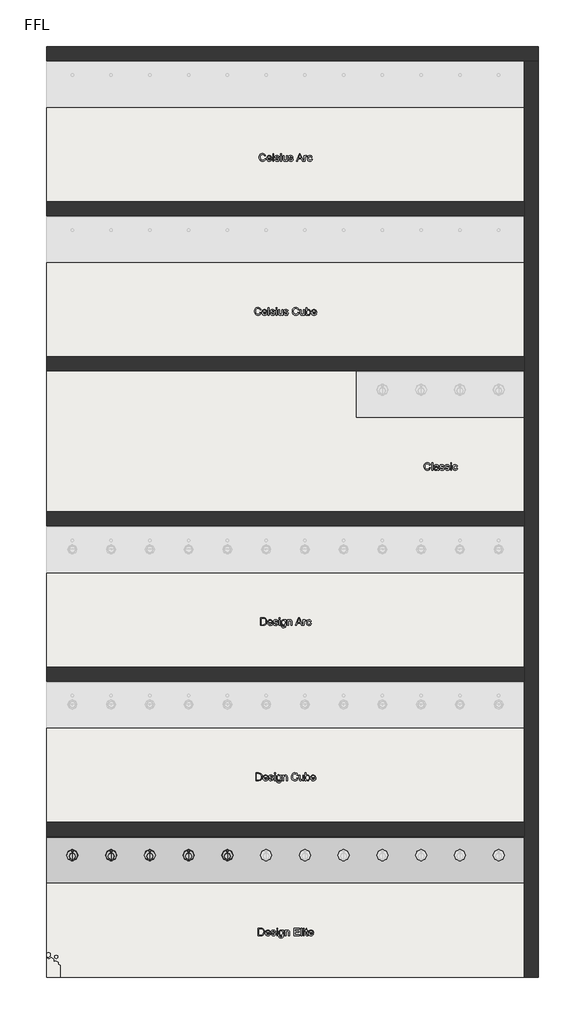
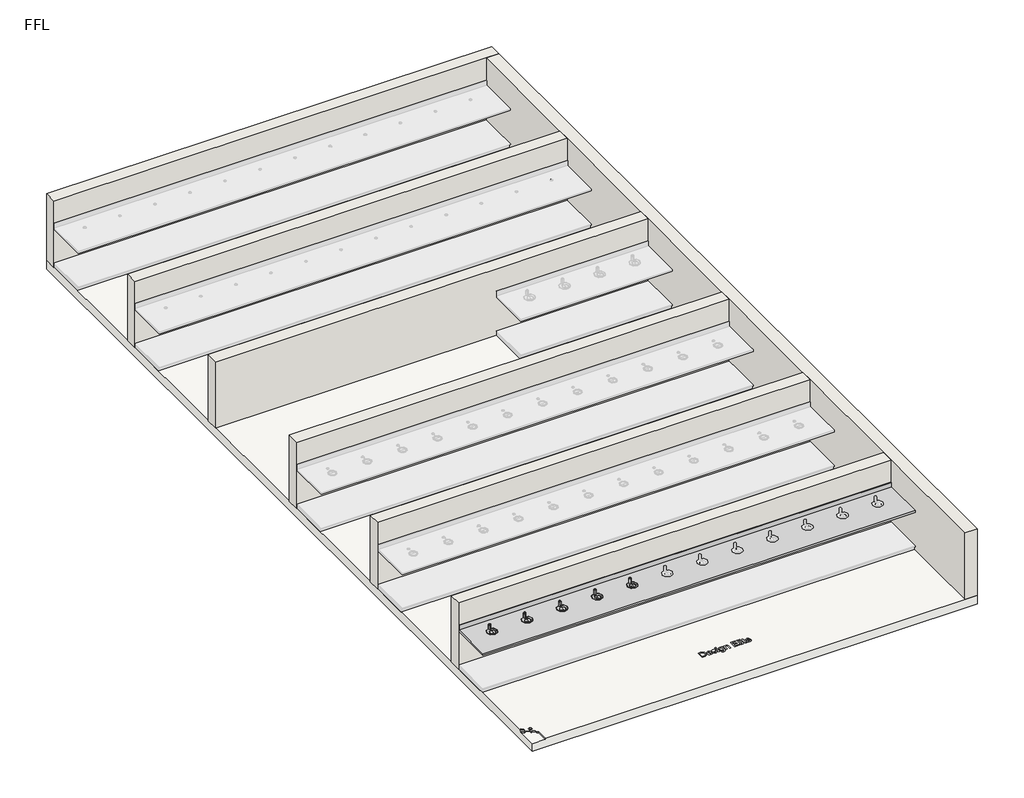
# One storey, part 1 of 6: 7 walls, 5 flow terminals, 1 furniture element, 1 slab.
"""IFC4 building model written with IfcOpenShell, lengths in millimetres."""

from ifc_helpers import new_model, si_unit, frame, origin, origin_with_axes, place, context, project, spatial, polyline, circle_curve, outline, extrude, faceted_brep, transform, mapped, element, save
from ifc_brep_helpers import plane_surface, revolved_surface, advanced_brep
from components import bright_chrome_13082571

model = new_model("IFC4")

# Units and contexts
model_context = context("Model", 3, world=origin())
ifc_project = project(units=[si_unit("LENGTHUNIT", "METRE", prefix="MILLI")], contexts=[model_context])

# Site, building, storey
site = spatial("IfcSite", under=ifc_project)
building = spatial("IfcBuilding", under=site)
storey = spatial("IfcBuildingStorey", under=building, Name="FFL", Elevation=0.0)

# Flow terminals
placement = place(None, origin())
bright_chrome_shape = bright_chrome_13082571(model_context)
element("IfcFlowTerminal", 1, ObjectType="z_PlumFixt_Zip Australia_Font and Tap Riser : Bright Chrome", at=placement, inside=storey, context=model_context, shape_type="MappedRepresentation", body=[
    mapped(bright_chrome_shape, transform((-6470.7352929, -1532.0106696, 900.0), x_axis=(1.0, 0.0, 0.0), y_axis=(0.0, 1.0, 0.0), z_axis=(0.0, 0.0, 1.0))),
])
element("IfcFlowTerminal", 2, ObjectType="z_PlumFixt_Zip Australia_Font and Tap Riser : Brushed Chrome", at=placement, inside=storey, context=model_context, shape_type="MappedRepresentation", body=[
    mapped(bright_chrome_shape, transform((-5720.7352929, -1532.0106696, 900.0), x_axis=(1.0, 0.0, 0.0), y_axis=(0.0, 1.0, 0.0), z_axis=(0.0, 0.0, 1.0))),
])
element("IfcFlowTerminal", 3, ObjectType="z_PlumFixt_Zip Australia_Font and Tap Riser : Brushed Gold", at=placement, inside=storey, context=model_context, shape_type="MappedRepresentation", body=[
    mapped(bright_chrome_shape, transform((-4970.7352929, -1532.0106696, 900.0), x_axis=(1.0, 0.0, 0.0), y_axis=(0.0, 1.0, 0.0), z_axis=(0.0, 0.0, 1.0))),
])
element("IfcFlowTerminal", 4, ObjectType="z_PlumFixt_Zip Australia_Font and Tap Riser : Brushed Nickel", at=placement, inside=storey, context=model_context, shape_type="MappedRepresentation", body=[
    mapped(bright_chrome_shape, transform((-4220.7352929, -1532.0106696, 900.0), x_axis=(1.0, 0.0, 0.0), y_axis=(0.0, 1.0, 0.0), z_axis=(0.0, 0.0, 1.0))),
])
element("IfcFlowTerminal", 5, ObjectType="z_PlumFixt_Zip Australia_Font and Tap Riser : Brushed Rose Gold", at=placement, inside=storey, context=model_context, shape_type="MappedRepresentation", body=[
    mapped(bright_chrome_shape, transform((-3470.7352929, -1532.0106696, 900.0), x_axis=(1.0, 0.0, 0.0), y_axis=(0.0, 1.0, 0.0), z_axis=(0.0, 0.0, 1.0))),
])

# Furniture
element("IfcFurniture", 6, ObjectType="Counter Top : 900mm Depth", at=placement, inside=storey, context=model_context, shape_type="AdvancedBrep", body=[
    advanced_brep(
    [(-6969.7352929, -2051.7606696, 900.0), (2280.2657919, -2051.7606696, 900.0), (2280.2657919, -1170.8106696, 900.0), (-6969.7352929, -1170.8106696, 900.0), (-6469.7352929, -1592.3787097, 900.0), (-6469.7352929, -1484.3787097, 900.0), (-6469.7352929, -1449.2606696, 900.0), (-6469.7352929, -1414.2606696, 900.0), (-5719.7352929, -1449.2606696, 900.0), (-5719.7352929, -1414.2606696, 900.0), (-4969.7352929, -1592.3787097, 900.0), (-4969.7352929, -1484.3787097, 900.0), (-4969.7352929, -1449.2606696, 900.0), (-4969.7352929, -1414.2606696, 900.0), (-4219.7352929, -1449.2606696, 900.0), (-4219.7352929, -1414.2606696, 900.0), (-3469.7352929, -1592.3787097, 900.0), (-3469.7352929, -1484.3787097, 900.0), (-3469.7352929, -1449.2606696, 900.0), (-3469.7352929, -1414.2606696, 900.0), (-2719.7352929, -1449.2606696, 900.0), (-2719.7352929, -1414.2606696, 900.0), (-1969.7352929, -1592.3787097, 900.0), (-1969.7352929, -1484.3787097, 900.0), (-1969.7352929, -1449.2606696, 900.0), (-1969.7352929, -1414.2606696, 900.0), (-1219.7352929, -1449.2606696, 900.0), (-1219.7352929, -1414.2606696, 900.0), (-469.7352929, -1592.3787097, 900.0), (-469.7352929, -1484.3787097, 900.0), (-469.7352929, -1449.2606696, 900.0), (-469.7352929, -1414.2606696, 900.0), (280.2647071, -1449.2606696, 900.0), (280.2647071, -1414.2606696, 900.0), (1030.2647071, -1592.3787097, 900.0), (1030.2647071, -1484.3787097, 900.0), (1030.2647071, -1449.2606696, 900.0), (1030.2647071, -1414.2606696, 900.0), (1780.2647071, -1449.2606696, 900.0), (1780.2647071, -1414.2606696, 900.0), (-5719.7352929, -1592.3787097, 900.0), (-5719.7352929, -1484.3787097, 900.0), (-4219.7352929, -1592.3787097, 900.0), (-4219.7352929, -1484.3787097, 900.0), (-2719.7352929, -1592.3787097, 900.0), (-2719.7352929, -1484.3787097, 900.0), (-1219.7352929, -1592.3787097, 900.0), (-1219.7352929, -1484.3787097, 900.0), (280.2647071, -1592.3787097, 900.0), (280.2647071, -1484.3787097, 900.0), (1780.2647071, -1592.3787097, 900.0), (1780.2647071, -1484.3787097, 900.0), (2280.2657919, -1151.7606696, 860.0), (2280.2657919, -2051.7606696, 860.0), (-6969.7352929, -2051.7606696, 860.0), (-6969.7352929, -1151.7606696, 860.0), (-6469.7352929, -1484.3787097, 860.0), (-6469.7352929, -1592.3787097, 860.0), (-6469.7352929, -1414.2606696, 860.0), (-6469.7352929, -1449.2606696, 860.0), (-5719.7352929, -1414.2606696, 860.0), (-5719.7352929, -1449.2606696, 860.0), (-4969.7352929, -1484.3787097, 860.0), (-4969.7352929, -1592.3787097, 860.0), (-4969.7352929, -1414.2606696, 860.0), (-4969.7352929, -1449.2606696, 860.0), (-4219.7352929, -1414.2606696, 860.0), (-4219.7352929, -1449.2606696, 860.0), (-3469.7352929, -1484.3787097, 860.0), (-3469.7352929, -1592.3787097, 860.0), (-3469.7352929, -1414.2606696, 860.0), (-3469.7352929, -1449.2606696, 860.0), (-2719.7352929, -1414.2606696, 860.0), (-2719.7352929, -1449.2606696, 860.0), (-1969.7352929, -1484.3787097, 860.0), (-1969.7352929, -1592.3787097, 860.0), (-1969.7352929, -1414.2606696, 860.0), (-1969.7352929, -1449.2606696, 860.0), (-1219.7352929, -1414.2606696, 860.0), (-1219.7352929, -1449.2606696, 860.0), (-469.7352929, -1484.3787097, 860.0), (-469.7352929, -1592.3787097, 860.0), (-469.7352929, -1414.2606696, 860.0), (-469.7352929, -1449.2606696, 860.0), (280.2647071, -1414.2606696, 860.0), (280.2647071, -1449.2606696, 860.0), (1030.2647071, -1484.3787097, 860.0), (1030.2647071, -1592.3787097, 860.0), (1030.2647071, -1414.2606696, 860.0), (1030.2647071, -1449.2606696, 860.0), (1780.2647071, -1414.2606696, 860.0), (1780.2647071, -1449.2606696, 860.0), (-5719.7352929, -1484.3787097, 860.0), (-5719.7352929, -1592.3787097, 860.0), (-4219.7352929, -1484.3787097, 860.0), (-4219.7352929, -1592.3787097, 860.0), (-2719.7352929, -1484.3787097, 860.0), (-2719.7352929, -1592.3787097, 860.0), (-1219.7352929, -1484.3787097, 860.0), (-1219.7352929, -1592.3787097, 860.0), (280.2647071, -1484.3787097, 860.0), (280.2647071, -1592.3787097, 860.0), (1780.2647071, -1484.3787097, 860.0), (1780.2647071, -1592.3787097, 860.0), (-6969.7352929, -1151.7606696, 1001.6), (2280.2657919, -1151.7606696, 1001.6), (-6969.7352929, -1170.8106696, 1001.6), (2280.2657919, -1170.8106696, 1001.6)],
    [
        (0, 1),
        (1, 2),
        (2, 3),
        (3, 0),
        (4, 5, circle_curve(frame((-6469.7352929, -1538.3787097, 900.0), z_axis=(0.0, 0.0, -1.0), x_axis=(0.0, -1.0, 0.0)), 54.0)),
        (5, 4, circle_curve(frame((-6469.7352929, -1538.3787097, 900.0), z_axis=(0.0, 0.0, -1.0), x_axis=(0.0, -1.0, 0.0)), 54.0)),
        (6, 7, circle_curve(frame((-6469.7352929, -1431.7606696, 900.0), z_axis=(0.0, 0.0, -1.0), x_axis=(0.0, -1.0, 0.0)), 17.5)),
        (7, 6, circle_curve(frame((-6469.7352929, -1431.7606696, 900.0), z_axis=(0.0, 0.0, -1.0), x_axis=(0.0, -1.0, 0.0)), 17.5)),
        (8, 9, circle_curve(frame((-5719.7352929, -1431.7606696, 900.0), z_axis=(0.0, 0.0, -1.0), x_axis=(0.0, -1.0, 0.0)), 17.5)),
        (9, 8, circle_curve(frame((-5719.7352929, -1431.7606696, 900.0), z_axis=(0.0, 0.0, -1.0), x_axis=(0.0, -1.0, 0.0)), 17.5)),
        (10, 11, circle_curve(frame((-4969.7352929, -1538.3787097, 900.0), z_axis=(0.0, 0.0, -1.0), x_axis=(0.0, -1.0, 0.0)), 54.0)),
        (11, 10, circle_curve(frame((-4969.7352929, -1538.3787097, 900.0), z_axis=(0.0, 0.0, -1.0), x_axis=(0.0, -1.0, 0.0)), 54.0)),
        (12, 13, circle_curve(frame((-4969.7352929, -1431.7606696, 900.0), z_axis=(0.0, 0.0, -1.0), x_axis=(0.0, -1.0, 0.0)), 17.5)),
        (13, 12, circle_curve(frame((-4969.7352929, -1431.7606696, 900.0), z_axis=(0.0, 0.0, -1.0), x_axis=(0.0, -1.0, 0.0)), 17.5)),
        (14, 15, circle_curve(frame((-4219.7352929, -1431.7606696, 900.0), z_axis=(0.0, 0.0, -1.0), x_axis=(0.0, -1.0, 0.0)), 17.5)),
        (15, 14, circle_curve(frame((-4219.7352929, -1431.7606696, 900.0), z_axis=(0.0, 0.0, -1.0), x_axis=(0.0, -1.0, 0.0)), 17.5)),
        (16, 17, circle_curve(frame((-3469.7352929, -1538.3787097, 900.0), z_axis=(0.0, 0.0, -1.0), x_axis=(0.0, -1.0, 0.0)), 54.0)),
        (17, 16, circle_curve(frame((-3469.7352929, -1538.3787097, 900.0), z_axis=(0.0, 0.0, -1.0), x_axis=(0.0, -1.0, 0.0)), 54.0)),
        (18, 19, circle_curve(frame((-3469.7352929, -1431.7606696, 900.0), z_axis=(0.0, 0.0, -1.0), x_axis=(0.0, -1.0, 0.0)), 17.5)),
        (19, 18, circle_curve(frame((-3469.7352929, -1431.7606696, 900.0), z_axis=(0.0, 0.0, -1.0), x_axis=(0.0, -1.0, 0.0)), 17.5)),
        (20, 21, circle_curve(frame((-2719.7352929, -1431.7606696, 900.0), z_axis=(0.0, 0.0, -1.0), x_axis=(0.0, -1.0, 0.0)), 17.5)),
        (21, 20, circle_curve(frame((-2719.7352929, -1431.7606696, 900.0), z_axis=(0.0, 0.0, -1.0), x_axis=(0.0, -1.0, 0.0)), 17.5)),
        (22, 23, circle_curve(frame((-1969.7352929, -1538.3787097, 900.0), z_axis=(0.0, 0.0, -1.0), x_axis=(0.0, -1.0, 0.0)), 54.0)),
        (23, 22, circle_curve(frame((-1969.7352929, -1538.3787097, 900.0), z_axis=(0.0, 0.0, -1.0), x_axis=(0.0, -1.0, 0.0)), 54.0)),
        (24, 25, circle_curve(frame((-1969.7352929, -1431.7606696, 900.0), z_axis=(0.0, 0.0, -1.0), x_axis=(0.0, -1.0, 0.0)), 17.5)),
        (25, 24, circle_curve(frame((-1969.7352929, -1431.7606696, 900.0), z_axis=(0.0, 0.0, -1.0), x_axis=(0.0, -1.0, 0.0)), 17.5)),
        (26, 27, circle_curve(frame((-1219.7352929, -1431.7606696, 900.0), z_axis=(0.0, 0.0, -1.0), x_axis=(0.0, -1.0, 0.0)), 17.5)),
        (27, 26, circle_curve(frame((-1219.7352929, -1431.7606696, 900.0), z_axis=(0.0, 0.0, -1.0), x_axis=(0.0, -1.0, 0.0)), 17.5)),
        (28, 29, circle_curve(frame((-469.7352929, -1538.3787097, 900.0), z_axis=(0.0, 0.0, -1.0), x_axis=(0.0, -1.0, 0.0)), 54.0)),
        (29, 28, circle_curve(frame((-469.7352929, -1538.3787097, 900.0), z_axis=(0.0, 0.0, -1.0), x_axis=(0.0, -1.0, 0.0)), 54.0)),
        (30, 31, circle_curve(frame((-469.7352929, -1431.7606696, 900.0), z_axis=(0.0, 0.0, -1.0), x_axis=(0.0, -1.0, 0.0)), 17.5)),
        (31, 30, circle_curve(frame((-469.7352929, -1431.7606696, 900.0), z_axis=(0.0, 0.0, -1.0), x_axis=(0.0, -1.0, 0.0)), 17.5)),
        (32, 33, circle_curve(frame((280.2647071, -1431.7606696, 900.0), z_axis=(0.0, 0.0, -1.0), x_axis=(0.0, -1.0, 0.0)), 17.5)),
        (33, 32, circle_curve(frame((280.2647071, -1431.7606696, 900.0), z_axis=(0.0, 0.0, -1.0), x_axis=(0.0, -1.0, 0.0)), 17.5)),
        (34, 35, circle_curve(frame((1030.2647071, -1538.3787097, 900.0), z_axis=(0.0, 0.0, -1.0), x_axis=(0.0, -1.0, 0.0)), 54.0)),
        (35, 34, circle_curve(frame((1030.2647071, -1538.3787097, 900.0), z_axis=(0.0, 0.0, -1.0), x_axis=(0.0, -1.0, 0.0)), 54.0)),
        (36, 37, circle_curve(frame((1030.2647071, -1431.7606696, 900.0), z_axis=(0.0, 0.0, -1.0), x_axis=(0.0, -1.0, 0.0)), 17.5)),
        (37, 36, circle_curve(frame((1030.2647071, -1431.7606696, 900.0), z_axis=(0.0, 0.0, -1.0), x_axis=(0.0, -1.0, 0.0)), 17.5)),
        (38, 39, circle_curve(frame((1780.2647071, -1431.7606696, 900.0), z_axis=(0.0, 0.0, -1.0), x_axis=(0.0, -1.0, 0.0)), 17.5)),
        (39, 38, circle_curve(frame((1780.2647071, -1431.7606696, 900.0), z_axis=(0.0, 0.0, -1.0), x_axis=(0.0, -1.0, 0.0)), 17.5)),
        (40, 41, circle_curve(frame((-5719.7352929, -1538.3787097, 900.0), z_axis=(0.0, 0.0, -1.0), x_axis=(0.0, -1.0, 0.0)), 54.0)),
        (41, 40, circle_curve(frame((-5719.7352929, -1538.3787097, 900.0), z_axis=(0.0, 0.0, -1.0), x_axis=(0.0, -1.0, 0.0)), 54.0)),
        (42, 43, circle_curve(frame((-4219.7352929, -1538.3787097, 900.0), z_axis=(0.0, 0.0, -1.0), x_axis=(0.0, -1.0, 0.0)), 54.0)),
        (43, 42, circle_curve(frame((-4219.7352929, -1538.3787097, 900.0), z_axis=(0.0, 0.0, -1.0), x_axis=(0.0, -1.0, 0.0)), 54.0)),
        (44, 45, circle_curve(frame((-2719.7352929, -1538.3787097, 900.0), z_axis=(0.0, 0.0, -1.0), x_axis=(0.0, -1.0, 0.0)), 54.0)),
        (45, 44, circle_curve(frame((-2719.7352929, -1538.3787097, 900.0), z_axis=(0.0, 0.0, -1.0), x_axis=(0.0, -1.0, 0.0)), 54.0)),
        (46, 47, circle_curve(frame((-1219.7352929, -1538.3787097, 900.0), z_axis=(0.0, 0.0, -1.0), x_axis=(0.0, -1.0, 0.0)), 54.0)),
        (47, 46, circle_curve(frame((-1219.7352929, -1538.3787097, 900.0), z_axis=(0.0, 0.0, -1.0), x_axis=(0.0, -1.0, 0.0)), 54.0)),
        (48, 49, circle_curve(frame((280.2647071, -1538.3787097, 900.0), z_axis=(0.0, 0.0, -1.0), x_axis=(0.0, -1.0, 0.0)), 54.0)),
        (49, 48, circle_curve(frame((280.2647071, -1538.3787097, 900.0), z_axis=(0.0, 0.0, -1.0), x_axis=(0.0, -1.0, 0.0)), 54.0)),
        (50, 51, circle_curve(frame((1780.2647071, -1538.3787097, 900.0), z_axis=(0.0, 0.0, -1.0), x_axis=(0.0, -1.0, 0.0)), 54.0)),
        (51, 50, circle_curve(frame((1780.2647071, -1538.3787097, 900.0), z_axis=(0.0, 0.0, -1.0), x_axis=(0.0, -1.0, 0.0)), 54.0)),
        (52, 53),
        (53, 54),
        (54, 55),
        (55, 52),
        (56, 57, circle_curve(frame((-6469.7352929, -1538.3787097, 860.0), z_axis=(0.0, 0.0, 1.0), x_axis=(0.0, -1.0, 0.0)), 54.0)),
        (57, 56, circle_curve(frame((-6469.7352929, -1538.3787097, 860.0), z_axis=(0.0, 0.0, 1.0), x_axis=(0.0, -1.0, 0.0)), 54.0)),
        (58, 59, circle_curve(frame((-6469.7352929, -1431.7606696, 860.0), z_axis=(0.0, 0.0, 1.0), x_axis=(0.0, -1.0, 0.0)), 17.5)),
        (59, 58, circle_curve(frame((-6469.7352929, -1431.7606696, 860.0), z_axis=(0.0, 0.0, 1.0), x_axis=(0.0, -1.0, 0.0)), 17.5)),
        (60, 61, circle_curve(frame((-5719.7352929, -1431.7606696, 860.0), z_axis=(0.0, 0.0, 1.0), x_axis=(0.0, -1.0, 0.0)), 17.5)),
        (61, 60, circle_curve(frame((-5719.7352929, -1431.7606696, 860.0), z_axis=(0.0, 0.0, 1.0), x_axis=(0.0, -1.0, 0.0)), 17.5)),
        (62, 63, circle_curve(frame((-4969.7352929, -1538.3787097, 860.0), z_axis=(0.0, 0.0, 1.0), x_axis=(0.0, -1.0, 0.0)), 54.0)),
        (63, 62, circle_curve(frame((-4969.7352929, -1538.3787097, 860.0), z_axis=(0.0, 0.0, 1.0), x_axis=(0.0, -1.0, 0.0)), 54.0)),
        (64, 65, circle_curve(frame((-4969.7352929, -1431.7606696, 860.0), z_axis=(0.0, 0.0, 1.0), x_axis=(0.0, -1.0, 0.0)), 17.5)),
        (65, 64, circle_curve(frame((-4969.7352929, -1431.7606696, 860.0), z_axis=(0.0, 0.0, 1.0), x_axis=(0.0, -1.0, 0.0)), 17.5)),
        (66, 67, circle_curve(frame((-4219.7352929, -1431.7606696, 860.0), z_axis=(0.0, 0.0, 1.0), x_axis=(0.0, -1.0, 0.0)), 17.5)),
        (67, 66, circle_curve(frame((-4219.7352929, -1431.7606696, 860.0), z_axis=(0.0, 0.0, 1.0), x_axis=(0.0, -1.0, 0.0)), 17.5)),
        (68, 69, circle_curve(frame((-3469.7352929, -1538.3787097, 860.0), z_axis=(0.0, 0.0, 1.0), x_axis=(0.0, -1.0, 0.0)), 54.0)),
        (69, 68, circle_curve(frame((-3469.7352929, -1538.3787097, 860.0), z_axis=(0.0, 0.0, 1.0), x_axis=(0.0, -1.0, 0.0)), 54.0)),
        (70, 71, circle_curve(frame((-3469.7352929, -1431.7606696, 860.0), z_axis=(0.0, 0.0, 1.0), x_axis=(0.0, -1.0, 0.0)), 17.5)),
        (71, 70, circle_curve(frame((-3469.7352929, -1431.7606696, 860.0), z_axis=(0.0, 0.0, 1.0), x_axis=(0.0, -1.0, 0.0)), 17.5)),
        (72, 73, circle_curve(frame((-2719.7352929, -1431.7606696, 860.0), z_axis=(0.0, 0.0, 1.0), x_axis=(0.0, -1.0, 0.0)), 17.5)),
        (73, 72, circle_curve(frame((-2719.7352929, -1431.7606696, 860.0), z_axis=(0.0, 0.0, 1.0), x_axis=(0.0, -1.0, 0.0)), 17.5)),
        (74, 75, circle_curve(frame((-1969.7352929, -1538.3787097, 860.0), z_axis=(0.0, 0.0, 1.0), x_axis=(0.0, -1.0, 0.0)), 54.0)),
        (75, 74, circle_curve(frame((-1969.7352929, -1538.3787097, 860.0), z_axis=(0.0, 0.0, 1.0), x_axis=(0.0, -1.0, 0.0)), 54.0)),
        (76, 77, circle_curve(frame((-1969.7352929, -1431.7606696, 860.0), z_axis=(0.0, 0.0, 1.0), x_axis=(0.0, -1.0, 0.0)), 17.5)),
        (77, 76, circle_curve(frame((-1969.7352929, -1431.7606696, 860.0), z_axis=(0.0, 0.0, 1.0), x_axis=(0.0, -1.0, 0.0)), 17.5)),
        (78, 79, circle_curve(frame((-1219.7352929, -1431.7606696, 860.0), z_axis=(0.0, 0.0, 1.0), x_axis=(0.0, -1.0, 0.0)), 17.5)),
        (79, 78, circle_curve(frame((-1219.7352929, -1431.7606696, 860.0), z_axis=(0.0, 0.0, 1.0), x_axis=(0.0, -1.0, 0.0)), 17.5)),
        (80, 81, circle_curve(frame((-469.7352929, -1538.3787097, 860.0), z_axis=(0.0, 0.0, 1.0), x_axis=(0.0, -1.0, 0.0)), 54.0)),
        (81, 80, circle_curve(frame((-469.7352929, -1538.3787097, 860.0), z_axis=(0.0, 0.0, 1.0), x_axis=(0.0, -1.0, 0.0)), 54.0)),
        (82, 83, circle_curve(frame((-469.7352929, -1431.7606696, 860.0), z_axis=(0.0, 0.0, 1.0), x_axis=(0.0, -1.0, 0.0)), 17.5)),
        (83, 82, circle_curve(frame((-469.7352929, -1431.7606696, 860.0), z_axis=(0.0, 0.0, 1.0), x_axis=(0.0, -1.0, 0.0)), 17.5)),
        (84, 85, circle_curve(frame((280.2647071, -1431.7606696, 860.0), z_axis=(0.0, 0.0, 1.0), x_axis=(0.0, -1.0, 0.0)), 17.5)),
        (85, 84, circle_curve(frame((280.2647071, -1431.7606696, 860.0), z_axis=(0.0, 0.0, 1.0), x_axis=(0.0, -1.0, 0.0)), 17.5)),
        (86, 87, circle_curve(frame((1030.2647071, -1538.3787097, 860.0), z_axis=(0.0, 0.0, 1.0), x_axis=(0.0, -1.0, 0.0)), 54.0)),
        (87, 86, circle_curve(frame((1030.2647071, -1538.3787097, 860.0), z_axis=(0.0, 0.0, 1.0), x_axis=(0.0, -1.0, 0.0)), 54.0)),
        (88, 89, circle_curve(frame((1030.2647071, -1431.7606696, 860.0), z_axis=(0.0, 0.0, 1.0), x_axis=(0.0, -1.0, 0.0)), 17.5)),
        (89, 88, circle_curve(frame((1030.2647071, -1431.7606696, 860.0), z_axis=(0.0, 0.0, 1.0), x_axis=(0.0, -1.0, 0.0)), 17.5)),
        (90, 91, circle_curve(frame((1780.2647071, -1431.7606696, 860.0), z_axis=(0.0, 0.0, 1.0), x_axis=(0.0, -1.0, 0.0)), 17.5)),
        (91, 90, circle_curve(frame((1780.2647071, -1431.7606696, 860.0), z_axis=(0.0, 0.0, 1.0), x_axis=(0.0, -1.0, 0.0)), 17.5)),
        (92, 93, circle_curve(frame((-5719.7352929, -1538.3787097, 860.0), z_axis=(0.0, 0.0, 1.0), x_axis=(0.0, -1.0, 0.0)), 54.0)),
        (93, 92, circle_curve(frame((-5719.7352929, -1538.3787097, 860.0), z_axis=(0.0, 0.0, 1.0), x_axis=(0.0, -1.0, 0.0)), 54.0)),
        (94, 95, circle_curve(frame((-4219.7352929, -1538.3787097, 860.0), z_axis=(0.0, 0.0, 1.0), x_axis=(0.0, -1.0, 0.0)), 54.0)),
        (95, 94, circle_curve(frame((-4219.7352929, -1538.3787097, 860.0), z_axis=(0.0, 0.0, 1.0), x_axis=(0.0, -1.0, 0.0)), 54.0)),
        (96, 97, circle_curve(frame((-2719.7352929, -1538.3787097, 860.0), z_axis=(0.0, 0.0, 1.0), x_axis=(0.0, -1.0, 0.0)), 54.0)),
        (97, 96, circle_curve(frame((-2719.7352929, -1538.3787097, 860.0), z_axis=(0.0, 0.0, 1.0), x_axis=(0.0, -1.0, 0.0)), 54.0)),
        (98, 99, circle_curve(frame((-1219.7352929, -1538.3787097, 860.0), z_axis=(0.0, 0.0, 1.0), x_axis=(0.0, -1.0, 0.0)), 54.0)),
        (99, 98, circle_curve(frame((-1219.7352929, -1538.3787097, 860.0), z_axis=(0.0, 0.0, 1.0), x_axis=(0.0, -1.0, 0.0)), 54.0)),
        (100, 101, circle_curve(frame((280.2647071, -1538.3787097, 860.0), z_axis=(0.0, 0.0, 1.0), x_axis=(0.0, -1.0, 0.0)), 54.0)),
        (101, 100, circle_curve(frame((280.2647071, -1538.3787097, 860.0), z_axis=(0.0, 0.0, 1.0), x_axis=(0.0, -1.0, 0.0)), 54.0)),
        (102, 103, circle_curve(frame((1780.2647071, -1538.3787097, 860.0), z_axis=(0.0, 0.0, 1.0), x_axis=(0.0, -1.0, 0.0)), 54.0)),
        (103, 102, circle_curve(frame((1780.2647071, -1538.3787097, 860.0), z_axis=(0.0, 0.0, 1.0), x_axis=(0.0, -1.0, 0.0)), 54.0)),
        (55, 104),
        (104, 105),
        (105, 52),
        (3, 106),
        (106, 104),
        (54, 0),
        (53, 1),
        (105, 107),
        (107, 2),
        (106, 107),
        (56, 5),
        (4, 57),
        (58, 7),
        (6, 59),
        (92, 41),
        (40, 93),
        (60, 9),
        (8, 61),
        (62, 11),
        (10, 63),
        (64, 13),
        (12, 65),
        (94, 43),
        (42, 95),
        (66, 15),
        (14, 67),
        (68, 17),
        (16, 69),
        (70, 19),
        (18, 71),
        (96, 45),
        (44, 97),
        (72, 21),
        (20, 73),
        (74, 23),
        (22, 75),
        (76, 25),
        (24, 77),
        (98, 47),
        (46, 99),
        (78, 27),
        (26, 79),
        (80, 29),
        (28, 81),
        (82, 31),
        (30, 83),
        (100, 49),
        (48, 101),
        (84, 33),
        (32, 85),
        (86, 35),
        (34, 87),
        (88, 37),
        (36, 89),
        (102, 51),
        (50, 103),
        (90, 39),
        (38, 91),
    ],
    [
        plane_surface(frame((-6969.7352929, -1151.7606696, 900.0), z_axis=(0.0, 0.0, 1.0), x_axis=(-1.0, 0.0, 0.0))),
        plane_surface(frame((-6969.7352929, -1151.7606696, 860.0), z_axis=(0.0, 0.0, -1.0), x_axis=(1.0, 0.0, 0.0))),
        plane_surface(frame((2280.2657919, -1151.7606696, 900.0), z_axis=(0.0, 1.0, 0.0), x_axis=(0.0, 0.0, -1.0))),
        plane_surface(frame((-6969.7352929, -1151.7606696, 900.0), z_axis=(-1.0, 0.0, 0.0), x_axis=(0.0, 0.0, -1.0))),
        plane_surface(frame((-6969.7352929, -2051.7606696, 900.0), z_axis=(0.0, -1.0, 0.0), x_axis=(0.0, 0.0, -1.0))),
        plane_surface(frame((2280.2657919, -2051.7606696, 900.0), z_axis=(1.0, 0.0, 0.0), x_axis=(0.0, 0.0, -1.0))),
        plane_surface(frame((-6969.7352929, -1151.7606696, 1001.6), z_axis=(0.0, 0.0, 1.0), x_axis=(0.0, -1.0, 0.0))),
        plane_surface(frame((-6969.7352929, -1170.8106696, 1001.6), z_axis=(0.0, -1.0, 0.0), x_axis=(0.0, 0.0, -1.0))),
        revolved_surface(polyline([(-6469.7352929, -1592.3787097, 900.0), (-6469.7352929, -1592.3787097, 860.0)]), (-6469.7352929, -1538.3787097, 700.0), (0.0, 0.0, 1.0)),
        revolved_surface(polyline([(-6469.7352929, -1449.2606696, 900.0), (-6469.7352929, -1449.2606696, 860.0)]), (-6469.7352929, -1431.7606696, 700.0), (0.0, 0.0, 1.0)),
        revolved_surface(polyline([(-5719.7352929, -1592.3787097, 900.0), (-5719.7352929, -1592.3787097, 860.0)]), (-5719.7352929, -1538.3787097, 700.0), (0.0, 0.0, 1.0)),
        revolved_surface(polyline([(-5719.7352929, -1449.2606696, 900.0), (-5719.7352929, -1449.2606696, 860.0)]), (-5719.7352929, -1431.7606696, 700.0), (0.0, 0.0, 1.0)),
        revolved_surface(polyline([(-4969.7352929, -1592.3787097, 900.0), (-4969.7352929, -1592.3787097, 860.0)]), (-4969.7352929, -1538.3787097, 700.0), (0.0, 0.0, 1.0)),
        revolved_surface(polyline([(-4969.7352929, -1449.2606696, 900.0), (-4969.7352929, -1449.2606696, 860.0)]), (-4969.7352929, -1431.7606696, 700.0), (0.0, 0.0, 1.0)),
        revolved_surface(polyline([(-4219.7352929, -1592.3787097, 900.0), (-4219.7352929, -1592.3787097, 860.0)]), (-4219.7352929, -1538.3787097, 700.0), (0.0, 0.0, 1.0)),
        revolved_surface(polyline([(-4219.7352929, -1449.2606696, 900.0), (-4219.7352929, -1449.2606696, 860.0)]), (-4219.7352929, -1431.7606696, 700.0), (0.0, 0.0, 1.0)),
        revolved_surface(polyline([(-3469.7352929, -1592.3787097, 900.0), (-3469.7352929, -1592.3787097, 860.0)]), (-3469.7352929, -1538.3787097, 700.0), (0.0, 0.0, 1.0)),
        revolved_surface(polyline([(-3469.7352929, -1449.2606696, 900.0), (-3469.7352929, -1449.2606696, 860.0)]), (-3469.7352929, -1431.7606696, 700.0), (0.0, 0.0, 1.0)),
        revolved_surface(polyline([(-2719.7352929, -1592.3787097, 900.0), (-2719.7352929, -1592.3787097, 860.0)]), (-2719.7352929, -1538.3787097, 700.0), (0.0, 0.0, 1.0)),
        revolved_surface(polyline([(-2719.7352929, -1449.2606696, 900.0), (-2719.7352929, -1449.2606696, 860.0)]), (-2719.7352929, -1431.7606696, 700.0), (0.0, 0.0, 1.0)),
        revolved_surface(polyline([(-1969.7352929, -1592.3787097, 900.0), (-1969.7352929, -1592.3787097, 860.0)]), (-1969.7352929, -1538.3787097, 700.0), (0.0, 0.0, 1.0)),
        revolved_surface(polyline([(-1969.7352929, -1449.2606696, 900.0), (-1969.7352929, -1449.2606696, 860.0)]), (-1969.7352929, -1431.7606696, 700.0), (0.0, 0.0, 1.0)),
        revolved_surface(polyline([(-1219.7352929, -1592.3787097, 900.0), (-1219.7352929, -1592.3787097, 860.0)]), (-1219.7352929, -1538.3787097, 700.0), (0.0, 0.0, 1.0)),
        revolved_surface(polyline([(-1219.7352929, -1449.2606696, 900.0), (-1219.7352929, -1449.2606696, 860.0)]), (-1219.7352929, -1431.7606696, 700.0), (0.0, 0.0, 1.0)),
        revolved_surface(polyline([(-469.7352929, -1592.3787097, 900.0), (-469.7352929, -1592.3787097, 860.0)]), (-469.7352929, -1538.3787097, 700.0), (0.0, 0.0, 1.0)),
        revolved_surface(polyline([(-469.7352929, -1449.2606696, 900.0), (-469.7352929, -1449.2606696, 860.0)]), (-469.7352929, -1431.7606696, 700.0), (0.0, 0.0, 1.0)),
        revolved_surface(polyline([(280.2647071, -1592.3787097, 900.0), (280.2647071, -1592.3787097, 860.0)]), (280.2647071, -1538.3787097, 700.0), (0.0, 0.0, 1.0)),
        revolved_surface(polyline([(280.2647071, -1449.2606696, 900.0), (280.2647071, -1449.2606696, 860.0)]), (280.2647071, -1431.7606696, 700.0), (0.0, 0.0, 1.0)),
        revolved_surface(polyline([(1030.2647071, -1592.3787097, 900.0), (1030.2647071, -1592.3787097, 860.0)]), (1030.2647071, -1538.3787097, 700.0), (0.0, 0.0, 1.0)),
        revolved_surface(polyline([(1030.2647071, -1449.2606696, 900.0), (1030.2647071, -1449.2606696, 860.0)]), (1030.2647071, -1431.7606696, 700.0), (0.0, 0.0, 1.0)),
        revolved_surface(polyline([(1780.2647071, -1592.3787097, 900.0), (1780.2647071, -1592.3787097, 860.0)]), (1780.2647071, -1538.3787097, 700.0), (0.0, 0.0, 1.0)),
        revolved_surface(polyline([(1780.2647071, -1449.2606696, 900.0), (1780.2647071, -1449.2606696, 860.0)]), (1780.2647071, -1431.7606696, 700.0), (0.0, 0.0, 1.0)),
    ],
    [
        (0, [[1, 2, 3, 4], [5, 6], [7, 8], [9, 10], [11, 12], [13, 14], [15, 16], [17, 18], [19, 20], [21, 22], [23, 24], [25, 26], [27, 28], [29, 30], [31, 32], [33, 34], [35, 36], [37, 38], [39, 40], [41, 42], [43, 44], [45, 46], [47, 48], [49, 50], [51, 52]]),
        (1, [[53, 54, 55, 56], [57, 58], [59, 60], [61, 62], [63, 64], [65, 66], [67, 68], [69, 70], [71, 72], [73, 74], [75, 76], [77, 78], [79, 80], [81, 82], [83, 84], [85, 86], [87, 88], [89, 90], [91, 92], [93, 94], [95, 96], [97, 98], [99, 100], [101, 102], [103, 104]]),
        (2, [[-56, 105, 106, 107]]),
        (3, [[-4, 108, 109, -105, -55, 110]]),
        (4, [[-1, -110, -54, 111]]),
        (5, [[-2, -111, -53, -107, 112, 113]]),
        (6, [[-106, -109, 114, -112]]),
        (7, [[-3, -113, -114, -108]]),
        (8, [[115, -5, 116, -57]]),
        (8, [[-115, -58, -116, -6]]),
        (9, [[117, -7, 118, -59]]),
        (9, [[-117, -60, -118, -8]]),
        (10, [[119, -41, 120, -93]]),
        (10, [[-119, -94, -120, -42]]),
        (11, [[121, -9, 122, -61]]),
        (11, [[-121, -62, -122, -10]]),
        (12, [[123, -11, 124, -63]]),
        (12, [[-123, -64, -124, -12]]),
        (13, [[125, -13, 126, -65]]),
        (13, [[-125, -66, -126, -14]]),
        (14, [[127, -43, 128, -95]]),
        (14, [[-127, -96, -128, -44]]),
        (15, [[129, -15, 130, -67]]),
        (15, [[-129, -68, -130, -16]]),
        (16, [[131, -17, 132, -69]]),
        (16, [[-131, -70, -132, -18]]),
        (17, [[133, -19, 134, -71]]),
        (17, [[-133, -72, -134, -20]]),
        (18, [[135, -45, 136, -97]]),
        (18, [[-135, -98, -136, -46]]),
        (19, [[137, -21, 138, -73]]),
        (19, [[-137, -74, -138, -22]]),
        (20, [[139, -23, 140, -75]]),
        (20, [[-139, -76, -140, -24]]),
        (21, [[141, -25, 142, -77]]),
        (21, [[-141, -78, -142, -26]]),
        (22, [[143, -47, 144, -99]]),
        (22, [[-143, -100, -144, -48]]),
        (23, [[145, -27, 146, -79]]),
        (23, [[-145, -80, -146, -28]]),
        (24, [[147, -29, 148, -81]]),
        (24, [[-147, -82, -148, -30]]),
        (25, [[149, -31, 150, -83]]),
        (25, [[-149, -84, -150, -32]]),
        (26, [[151, -49, 152, -101]]),
        (26, [[-151, -102, -152, -50]]),
        (27, [[153, -33, 154, -85]]),
        (27, [[-153, -86, -154, -34]]),
        (28, [[155, -35, 156, -87]]),
        (28, [[-155, -88, -156, -36]]),
        (29, [[157, -37, 158, -89]]),
        (29, [[-157, -90, -158, -38]]),
        (30, [[159, -51, 160, -103]]),
        (30, [[-159, -104, -160, -52]]),
        (31, [[161, -39, 162, -91]]),
        (31, [[-161, -92, -162, -40]]),
    ],
),
])

# Slab
element("IfcSlab", 7, ObjectType="Generic 200mm", at=placement, inside=storey, context=model_context, shape_type="Brep", body=[
    faceted_brep([(2550.2657919, 14118.2393304, -200.0), (2550.2657919, -3881.7606696, -200.0), (-6969.7352929, -3881.7606696, -200.0), (-6969.7352929, 14118.2393304, -200.0), (2550.2657919, -3881.7606696, 0.0), (2550.2657919, 14118.2393304, 0.0), (-6969.7352929, 14118.2393304, 0.0), (-6969.7352929, -3411.7415826, 0.0), (-6932.7223575, -3390.3721543, 0.0), (-6886.3702024, -3417.1335835, 0.0), (-6886.3702024, -3472.3052169, 0.0), (-6932.7223575, -3499.066646, 0.0), (-6969.7352929, -3477.6972178, 0.0), (-6969.7352929, -3490.7154592, 0.0), (-6922.7403751, -3517.8479876, 0.0), (-6876.7358496, -3491.2872624, 0.0), (-6817.5048451, -3525.4842988, 0.0), (-6817.5048451, -3572.1225285, 0.0), (-6788.2362051, -3555.2242713, 0.0), (-6733.5871808, -3586.7759002, 0.0), (-6733.5871808, -3625.8867441, 0.0), (-6698.9461647, -3645.8867441, 0.0), (-6698.9461647, -3881.7606696, 0.0), (-6782.6159207, -3448.2582527, 0.0), (-6751.8110434, -3466.0434569, 0.0), (-6751.8110434, -3498.6512518, 0.0), (-6782.6159207, -3516.436456, 0.0), (-6813.420798, -3498.6512518, 0.0), (-6813.420798, -3466.0434569, 0.0), (-6698.9461647, -3881.7606696, -25.0), (-6969.7352929, -3881.7606696, -25.0), (-6969.7352929, -3490.704556, -25.0), (-6969.7352929, -3477.6972178, -25.0), (-6969.7352929, -3411.7415826, -25.0), (-6698.9461647, -3645.8867441, -25.0), (-6733.5871808, -3625.8867441, -25.0), (-6733.5871808, -3586.7759002, -25.0), (-6788.2362051, -3555.2242713, -25.0), (-6817.5048451, -3572.1225285, -25.0), (-6817.5048451, -3525.4842988, -25.0), (-6876.7358496, -3491.2872624, -25.0), (-6922.7403751, -3517.8479876, -25.0), (-6886.3702024, -3417.1335835, -25.0), (-6932.7223575, -3390.3721543, -25.0), (-6932.7223575, -3499.066646, -25.0), (-6886.3702024, -3472.3052169, -25.0), (-6751.8110434, -3466.0434569, -25.0), (-6782.6159207, -3448.2582527, -25.0), (-6813.420798, -3466.0434569, -25.0), (-6813.420798, -3498.6512518, -25.0), (-6782.6159207, -3516.436456, -25.0), (-6751.8110434, -3498.6512518, -25.0)], [[[0, 1, 2, 3]], [[4, 5, 6, 7, 8, 9, 10, 11, 12, 13, 14, 15, 16, 17, 18, 19, 20, 21, 22], [23, 24, 25, 26, 27, 28]], [[1, 0, 5, 4]], [[2, 1, 4, 22, 29, 30]], [[3, 2, 30, 31, 13, 12, 32, 33, 7, 6]], [[0, 3, 6, 5]], [[34, 35, 36, 37, 38, 39, 40, 41, 31, 30, 29]], [[42, 43, 33, 32, 44, 45]], [[46, 47, 48, 49, 50, 51]], [[34, 29, 22, 21]], [[35, 34, 21, 20]], [[36, 35, 20, 19]], [[37, 36, 19, 18]], [[38, 37, 18, 17]], [[39, 38, 17, 16]], [[40, 39, 16, 15]], [[41, 40, 15, 14]], [[31, 41, 14, 13]], [[43, 42, 9, 8]], [[33, 43, 8, 7]], [[44, 32, 12, 11]], [[45, 44, 11, 10]], [[42, 45, 10, 9]], [[47, 46, 24, 23]], [[48, 47, 23, 28]], [[49, 48, 28, 27]], [[50, 49, 27, 26]], [[51, 50, 26, 25]], [[46, 51, 25, 24]]]),
])

# Walls
element("IfcWall", 8, ObjectType="Double brick - 270", at=placement, inside=storey, context=model_context, shape_type="SweptSolid", body=[
    extrude(outline(polyline([(2280.2657919, 10848.2393304), (-6969.7352929, 10848.2393304), (-6969.7352929, 11118.2393304), (2280.2657919, 11118.2393304), (2280.2657919, 10848.2393304)])), origin_with_axes(), (0.0, 0.0, 1.0), 1500.0),
])
element("IfcWall", 9, ObjectType="Double brick - 270", at=placement, inside=storey, context=model_context, shape_type="Brep", body=[
    faceted_brep([(-6969.7352929, 13848.2393304, 0.0), (2280.2657919, 13848.2393304, 0.0), (2550.2657919, 13848.2393304, 0.0), (2550.2657919, 13848.2393304, 1500.0), (2280.2657919, 13848.2393304, 1500.0), (-6969.7352929, 13848.2393304, 1500.0), (-6969.7352929, 14118.2393304, 0.0), (-6969.7352929, 14118.2393304, 1500.0), (2550.2657919, 14118.2393304, 1500.0), (2550.2657919, 14118.2393304, 0.0)], [[[0, 1, 2, 3, 4, 5]], [[6, 7, 8, 9]], [[2, 1, 0, 6, 9]], [[5, 4, 3, 8, 7]], [[0, 5, 7, 6]], [[3, 2, 9, 8]]]),
])
element("IfcWall", 10, ObjectType="Double brick - 270", at=placement, inside=storey, context=model_context, shape_type="Brep", body=[
    faceted_brep([(2550.2657919, -3881.7606696, 0.0), (2550.2657919, 13848.2393304, 0.0), (2550.2657919, 13848.2393304, 1500.0), (2550.2657919, -3881.7606696, 1500.0), (2280.2657919, -3881.7606696, 0.0), (2280.2657919, -3881.7606696, 1500.0), (2280.2657919, -1151.7606696, 1500.0), (2280.2657919, -881.7606696, 1500.0), (2280.2657919, 1848.2393304, 1500.0), (2280.2657919, 2118.2393304, 1500.0), (2280.2657919, 4848.2393304, 1500.0), (2280.2657919, 5118.2393304, 1500.0), (2280.2657919, 7848.2393304, 1500.0), (2280.2657919, 8118.2393304, 1500.0), (2280.2657919, 10848.2393304, 1500.0), (2280.2657919, 11118.2393304, 1500.0), (2280.2657919, 13848.2393304, 1500.0), (2280.2657919, 13848.2393304, 0.0), (2280.2657919, 11118.2393304, 0.0), (2280.2657919, 10848.2393304, 0.0), (2280.2657919, 8118.2393304, 0.0), (2280.2657919, 7848.2393304, 0.0), (2280.2657919, 5118.2393304, 0.0), (2280.2657919, 4848.2393304, 0.0), (2280.2657919, 2118.2393304, 0.0), (2280.2657919, 1848.2393304, 0.0), (2280.2657919, -881.7606696, 0.0), (2280.2657919, -1151.7606696, 0.0)], [[[0, 1, 2, 3]], [[4, 5, 6, 7, 8, 9, 10, 11, 12, 13, 14, 15, 16, 17, 18, 19, 20, 21, 22, 23, 24, 25, 26, 27]], [[1, 0, 4, 27, 26, 25, 24, 23, 22, 21, 20, 19, 18, 17]], [[3, 2, 16, 15, 14, 13, 12, 11, 10, 9, 8, 7, 6, 5]], [[0, 3, 5, 4]], [[2, 1, 17, 16]]]),
])
element("IfcWall", 11, ObjectType="Double brick - 270", at=placement, inside=storey, context=model_context, shape_type="SweptSolid", body=[
    extrude(outline(polyline([(2280.2657919, 7848.2393304), (-6969.7352929, 7848.2393304), (-6969.7352929, 8118.2393304), (2280.2657919, 8118.2393304), (2280.2657919, 7848.2393304)])), origin_with_axes(), (0.0, 0.0, 1.0), 1500.0),
])
element("IfcWall", 12, ObjectType="Double brick - 270", at=placement, inside=storey, context=model_context, shape_type="SweptSolid", body=[
    extrude(outline(polyline([(2280.2657919, 4848.2393304), (-6969.7352929, 4848.2393304), (-6969.7352929, 5118.2393304), (2280.2657919, 5118.2393304), (2280.2657919, 4848.2393304)])), origin_with_axes(), (0.0, 0.0, 1.0), 1500.0),
])
element("IfcWall", 13, ObjectType="Double brick - 270", at=placement, inside=storey, context=model_context, shape_type="SweptSolid", body=[
    extrude(outline(polyline([(2280.2657919, 1848.2393304), (-6969.7352929, 1848.2393304), (-6969.7352929, 2118.2393304), (2280.2657919, 2118.2393304), (2280.2657919, 1848.2393304)])), origin_with_axes(), (0.0, 0.0, 1.0), 1500.0),
])
element("IfcWall", 14, ObjectType="Double brick - 270", at=placement, inside=storey, context=model_context, shape_type="SweptSolid", body=[
    extrude(outline(polyline([(2280.2657919, -1151.7606696), (-6969.7352929, -1151.7606696), (-6969.7352929, -881.7606696), (2280.2657919, -881.7606696), (2280.2657919, -1151.7606696)])), origin_with_axes(), (0.0, 0.0, 1.0), 1500.0),
])

save(model, "model.ifc")
